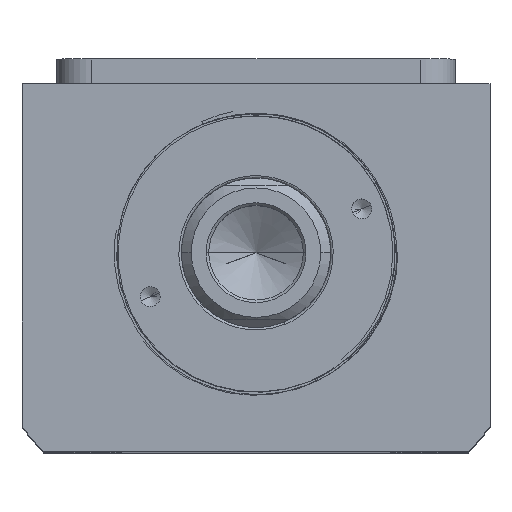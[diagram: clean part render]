
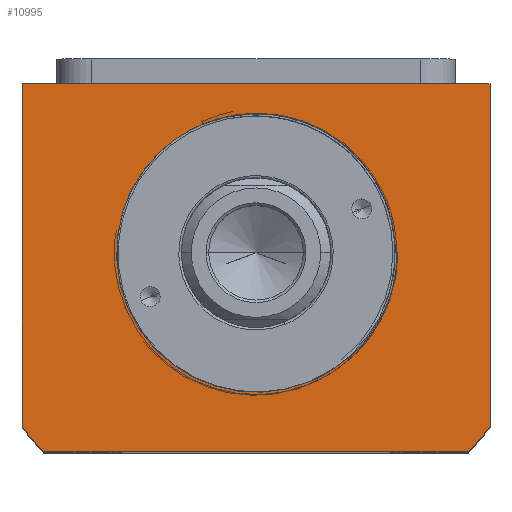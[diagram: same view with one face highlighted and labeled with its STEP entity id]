
A CAD part, top view. The second image highlights one B-rep face of the part: STEP entity #10995.
In plain terms, the highlighted planar face has unit normal (0, 0, 1).
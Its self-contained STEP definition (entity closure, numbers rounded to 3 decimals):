
#134 = DIRECTION ( 'NONE',  ( 1., 0., 0. ) ) ;
#273 = VERTEX_POINT ( 'NONE', #4445 ) ;
#345 = DIRECTION ( 'NONE',  ( 1., 0., 0. ) ) ;
#454 = CARTESIAN_POINT ( 'NONE',  ( 42.688, -40., 62.5 ) ) ;
#573 = CARTESIAN_POINT ( 'NONE',  ( 28.485, -0.71, 62.5 ) ) ;
#639 = CARTESIAN_POINT ( 'NONE',  ( 26.163, -10.961, 62.5 ) ) ;
#730 = CARTESIAN_POINT ( 'NONE',  ( 28., 0., 62.5 ) ) ;
#1104 = CARTESIAN_POINT ( 'NONE',  ( 28.495, 0., 62.5 ) ) ;
#1123 = VECTOR ( 'NONE', #5839, 1000. ) ;
#1256 = LINE ( 'NONE', #454, #8703 ) ;
#1443 = CARTESIAN_POINT ( 'NONE',  ( 19.714, -20.129, 62.5 ) ) ;
#1480 = DIRECTION ( 'NONE',  ( 0., 0., -1. ) ) ;
#1564 = CARTESIAN_POINT ( 'NONE',  ( 21.684, -18.094, 62.5 ) ) ;
#1603 = CARTESIAN_POINT ( 'NONE',  ( 28.233, -3.538, 62.5 ) ) ;
#1625 = CARTESIAN_POINT ( 'NONE',  ( 0., 0., 62.5 ) ) ;
#1714 = ORIENTED_EDGE ( 'NONE', *, *, #8960, .F. ) ;
#1740 = ORIENTED_EDGE ( 'NONE', *, *, #10190, .T. ) ;
#1774 = CARTESIAN_POINT ( 'NONE',  ( 42.688, -40., 62.5 ) ) ;
#1832 = DIRECTION ( 'NONE',  ( 0., 0., 1. ) ) ;
#1938 = PLANE ( 'NONE',  #9374 ) ;
#2297 = FACE_BOUND ( 'NONE', #7893, .T. ) ;
#2416 = DIRECTION ( 'NONE',  ( 1., 0., 0. ) ) ;
#2420 = CARTESIAN_POINT ( 'NONE',  ( 12.831, -24.945, 62.5 ) ) ;
#2456 = CARTESIAN_POINT ( 'NONE',  ( 13.459, -24.624, 62.5 ) ) ;
#2588 = VERTEX_POINT ( 'NONE', #1104 ) ;
#2668 = LINE ( 'NONE', #1625, #5347 ) ;
#2703 = VERTEX_POINT ( 'NONE', #9223 ) ;
#2928 = LINE ( 'NONE', #2993, #1123 ) ;
#2993 = CARTESIAN_POINT ( 'NONE',  ( -47., 34., 62.5 ) ) ;
#3119 = VERTEX_POINT ( 'NONE', #8961 ) ;
#3179 = VERTEX_POINT ( 'NONE', #7157 ) ;
#3224 = EDGE_LOOP ( 'NONE', ( #10103, #6544, #1740, #4182, #4154, #4161 ) ) ;
#3225 = CARTESIAN_POINT ( 'NONE',  ( 0., 0., 62.5 ) ) ;
#3230 = CARTESIAN_POINT ( 'NONE',  ( 15.3, -23.593, 62.5 ) ) ;
#3438 = AXIS2_PLACEMENT_3D ( 'NONE', #3225, #1480, #2416 ) ;
#4154 = ORIENTED_EDGE ( 'NONE', *, *, #4833, .T. ) ;
#4156 = CARTESIAN_POINT ( 'NONE',  ( 10.232, -26.064, 62.5 ) ) ;
#4161 = ORIENTED_EDGE ( 'NONE', *, *, #6337, .T. ) ;
#4182 = ORIENTED_EDGE ( 'NONE', *, *, #10171, .T. ) ;
#4445 = CARTESIAN_POINT ( 'NONE',  ( 10.232, -26.064, 62.5 ) ) ;
#4624 = LINE ( 'NONE', #8552, #10537 ) ;
#4738 = VERTEX_POINT ( 'NONE', #730 ) ;
#4833 = EDGE_CURVE ( 'NONE', #8939, #3119, #10674, .T. ) ;
#4894 = CIRCLE ( 'NONE', #3438, 28. ) ;
#4981 = VERTEX_POINT ( 'NONE', #9983 ) ;
#5140 = CARTESIAN_POINT ( 'NONE',  ( 18.667, -21.077, 62.5 ) ) ;
#5322 = VECTOR ( 'NONE', #9704, 1000. ) ;
#5347 = VECTOR ( 'NONE', #9791, 1000. ) ;
#5484 = CARTESIAN_POINT ( 'NONE',  ( 0., 0., 62.5 ) ) ;
#5742 = DIRECTION ( 'NONE',  ( 0., 0., 1. ) ) ;
#5781 = DIRECTION ( 'NONE',  ( 1., 0., 0. ) ) ;
#5839 = DIRECTION ( 'NONE',  ( -1., 0., 0. ) ) ;
#6010 = CARTESIAN_POINT ( 'NONE',  ( 26.694, -9.657, 62.5 ) ) ;
#6052 = CARTESIAN_POINT ( 'NONE',  ( 27.887, -5.628, 62.5 ) ) ;
#6091 = CARTESIAN_POINT ( 'NONE',  ( 24.898, -13.504, 62.5 ) ) ;
#6337 = EDGE_CURVE ( 'NONE', #3119, #7548, #8550, .T. ) ;
#6466 = AXIS2_PLACEMENT_3D ( 'NONE', #11127, #5742, #5781 ) ;
#6544 = ORIENTED_EDGE ( 'NONE', *, *, #9727, .T. ) ;
#6832 = CARTESIAN_POINT ( 'NONE',  ( 28.449, -1.419, 62.5 ) ) ;
#6860 = EDGE_CURVE ( 'NONE', #2588, #273, #11207, .T. ) ;
#6903 = CARTESIAN_POINT ( 'NONE',  ( 27.555, -6.99, 62.5 ) ) ;
#7157 = CARTESIAN_POINT ( 'NONE',  ( -47., 34., 62.5 ) ) ;
#7548 = VERTEX_POINT ( 'NONE', #10838 ) ;
#7678 = DIRECTION ( 'NONE',  ( 0., -1., 0. ) ) ;
#7812 = CARTESIAN_POINT ( 'NONE',  ( 22.571, -17.007, 62.5 ) ) ;
#7847 = CIRCLE ( 'NONE', #6466, 58.5 ) ;
#7852 = CARTESIAN_POINT ( 'NONE',  ( 16.467, -22.819, 62.5 ) ) ;
#7893 = EDGE_LOOP ( 'NONE', ( #1714, #8704, #7970 ) ) ;
#7962 = DIRECTION ( 'NONE',  ( 0., 0., 1. ) ) ;
#7970 = ORIENTED_EDGE ( 'NONE', *, *, #10630, .T. ) ;
#8550 = LINE ( 'NONE', #9828, #5322 ) ;
#8552 = CARTESIAN_POINT ( 'NONE',  ( -47., -34.832, 62.5 ) ) ;
#8584 = AXIS2_PLACEMENT_3D ( 'NONE', #11588, #1832, #8990 ) ;
#8632 = CARTESIAN_POINT ( 'NONE',  ( 18.129, -21.529, 62.5 ) ) ;
#8703 = VECTOR ( 'NONE', #345, 1000. ) ;
#8704 = ORIENTED_EDGE ( 'NONE', *, *, #6860, .T. ) ;
#8714 = CARTESIAN_POINT ( 'NONE',  ( 11.542, -25.544, 62.5 ) ) ;
#8751 = CARTESIAN_POINT ( 'NONE',  ( 10.89, -25.816, 62.5 ) ) ;
#8939 = VERTEX_POINT ( 'NONE', #1774 ) ;
#8960 = EDGE_CURVE ( 'NONE', #2588, #4738, #2668, .T. ) ;
#8961 = CARTESIAN_POINT ( 'NONE',  ( 47., -34.832, 62.5 ) ) ;
#8990 = DIRECTION ( 'NONE',  ( 1., 0., 0. ) ) ;
#9223 = CARTESIAN_POINT ( 'NONE',  ( -42.688, -40., 62.5 ) ) ;
#9374 = AXIS2_PLACEMENT_3D ( 'NONE', #5484, #7962, #134 ) ;
#9506 = EDGE_CURVE ( 'NONE', #7548, #3179, #2928, .T. ) ;
#9704 = DIRECTION ( 'NONE',  ( 0., 1., 0. ) ) ;
#9727 = EDGE_CURVE ( 'NONE', #3179, #4981, #4624, .T. ) ;
#9791 = DIRECTION ( 'NONE',  ( -1., 0., 0. ) ) ;
#9828 = CARTESIAN_POINT ( 'NONE',  ( 47., 34., 62.5 ) ) ;
#9983 = CARTESIAN_POINT ( 'NONE',  ( -47., -34.832, 62.5 ) ) ;
#10103 = ORIENTED_EDGE ( 'NONE', *, *, #9506, .T. ) ;
#10171 = EDGE_CURVE ( 'NONE', #2703, #8939, #1256, .T. ) ;
#10190 = EDGE_CURVE ( 'NONE', #4981, #2703, #7847, .T. ) ;
#10445 = CARTESIAN_POINT ( 'NONE',  ( 24.178, -14.712, 62.5 ) ) ;
#10529 = CARTESIAN_POINT ( 'NONE',  ( 20.224, -19.631, 62.5 ) ) ;
#10537 = VECTOR ( 'NONE', #7678, 1000. ) ;
#10630 = EDGE_CURVE ( 'NONE', #273, #4738, #4894, .T. ) ;
#10674 = CIRCLE ( 'NONE', #8584, 58.5 ) ;
#10799 = FACE_OUTER_BOUND ( 'NONE', #3224, .T. ) ;
#10838 = CARTESIAN_POINT ( 'NONE',  ( 47., 34., 62.5 ) ) ;
#10995 = ADVANCED_FACE ( 'NONE', ( #2297, #10799 ), #1938, .T. ) ;
#11127 = CARTESIAN_POINT ( 'NONE',  ( 0., 0., 62.5 ) ) ;
#11207 = B_SPLINE_CURVE_WITH_KNOTS ( 'NONE', 3,
 ( #11476, #573, #6832, #11394, #1603, #6052, #6903, #6010, #639, #6091, #10445, #7812, #1564, #10529, #1443, #5140, #8632, #7852, #3230, #2456, #2420, #8714, #8751, #4156 ),
 .UNSPECIFIED., .F., .F.,
 ( 4, 2, 2, 2, 2, 2, 2, 2, 2, 2, 2, 4 ),
 ( 0., 0.002, 0.004, 0.009, 0.013, 0.017, 0.021, 0.023, 0.026, 0.03, 0.032, 0.034 ),
 .UNSPECIFIED. ) ;
#11394 = CARTESIAN_POINT ( 'NONE',  ( 28.323, -2.832, 62.5 ) ) ;
#11476 = CARTESIAN_POINT ( 'NONE',  ( 28.495, 0., 62.5 ) ) ;
#11588 = CARTESIAN_POINT ( 'NONE',  ( 0., 0., 62.5 ) ) ;
